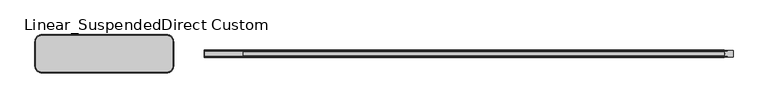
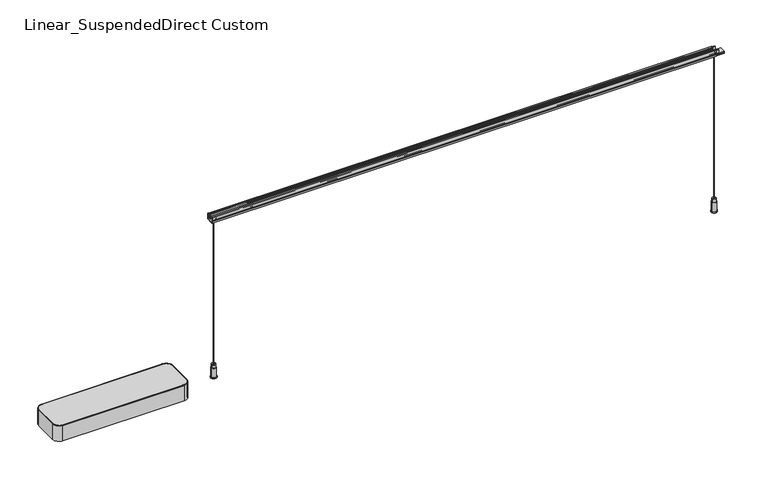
"""IFC4 building model written with IfcOpenShell, lengths in millimetres: light fixture geometry, ARTEMIDE-TurnAround-Linear_SuspendedDirect : Linear_SuspendedDirect Custom."""

from ifc_helpers import new_model, si_unit, point, frame, frame_2d, origin, origin_with_axes, place, context, project, spatial, polyline, circle_curve, ellipse_curve, trimmed, segment, composite_curve, outline, extrude, source, transform, mapped, element, save
from ifc_brep_helpers import plane_surface, cylinder_surface, revolved_surface, advanced_brep


def linear_suspendeddirect_custom_5ef7d768(model_context):
    return source(origin(), model_context, "Body", "SolidModel", [
        advanced_brep(
        [(-109.8389602, -55.0879179, 0.0), (-470.1610045, -55.0879179, 0.0), (-490.1610045, -35.0879179, 0.0), (-490.1610045, 35.0879179, 0.0), (-470.1610045, 55.0879179, 0.0), (-109.8389602, 55.0879179, 0.0), (-89.8389602, 35.0879179, 0.0), (-89.8389602, -35.0879179, 0.0), (-109.8389602, -53.0879179, 0.0), (-91.8389602, -35.0879179, 0.0), (-91.8389602, 35.0879179, 0.0), (-109.8389602, 53.0879179, 0.0), (-470.1610045, 53.0879179, 0.0), (-488.1610045, 35.0879179, 0.0), (-488.1610045, -35.0879179, 0.0), (-470.1610045, -53.0879179, 0.0), (-488.1610045, -35.0879179, 50.0), (-470.1610045, -53.0879179, 50.0), (-109.8389602, -53.0879179, 50.0), (-91.8389602, -35.0879179, 50.0), (-91.8389602, 35.0879179, 50.0), (-109.8389602, 53.0879179, 50.0), (-470.1610045, 53.0879179, 50.0), (-488.1610045, 35.0879179, 50.0), (-109.8389602, -55.0879179, 48.0), (-470.1610045, -55.0879179, 48.0), (-490.1610045, -35.0879179, 48.0), (-490.1610045, 35.0879179, 48.0), (-470.1610045, 55.0879179, 48.0), (-109.8389602, 55.0879179, 48.0), (-89.8389602, 35.0879179, 48.0), (-89.8389602, -35.0879179, 48.0), (-109.8389602, -53.0879179, 48.0), (-91.8389602, -35.0879179, 48.0), (-91.8389602, 35.0879179, 48.0), (-109.8389602, 53.0879179, 48.0), (-470.1610045, 53.0879179, 48.0), (-488.1610045, 35.0879179, 48.0), (-488.1610045, -35.0879179, 48.0), (-470.1610045, -53.0879179, 48.0)],
        [
            (0, 1),
            (1, 2, circle_curve(frame((-470.1610045, -35.0879179, 0.0), z_axis=(0.0, 0.0, -1.0), x_axis=(-1.0, 0.0, 0.0)), 20.0)),
            (2, 3),
            (3, 4, circle_curve(frame((-470.1610045, 35.0879179, 0.0), z_axis=(0.0, 0.0, -1.0), x_axis=(-1.0, 0.0, 0.0)), 20.0)),
            (4, 5),
            (5, 6, circle_curve(frame((-109.8389602, 35.0879179, 0.0), z_axis=(0.0, 0.0, -1.0), x_axis=(-1.0, 0.0, 0.0)), 20.0)),
            (6, 7),
            (7, 0, circle_curve(frame((-109.8389602, -35.0879179, 0.0), z_axis=(0.0, 0.0, -1.0), x_axis=(-1.0, 0.0, 0.0)), 20.0)),
            (8, 9, circle_curve(frame((-109.8389602, -35.0879179, 0.0), z_axis=(0.0, 0.0, 1.0), x_axis=(-1.0, 0.0, 0.0)), 18.0)),
            (9, 10),
            (10, 11, circle_curve(frame((-109.8389602, 35.0879179, 0.0), z_axis=(0.0, 0.0, 1.0), x_axis=(-1.0, 0.0, 0.0)), 18.0)),
            (11, 12),
            (12, 13, circle_curve(frame((-470.1610045, 35.0879179, 0.0), z_axis=(0.0, 0.0, 1.0), x_axis=(-1.0, 0.0, 0.0)), 18.0)),
            (13, 14),
            (14, 15, circle_curve(frame((-470.1610045, -35.0879179, 0.0), z_axis=(0.0, 0.0, 1.0), x_axis=(-1.0, 0.0, 0.0)), 18.0)),
            (15, 8),
            (16, 17, circle_curve(frame((-470.1610045, -35.0879179, 50.0), z_axis=(0.0, 0.0, 1.0), x_axis=(-1.0, 0.0, 0.0)), 18.0)),
            (17, 18),
            (18, 19, circle_curve(frame((-109.8389602, -35.0879179, 50.0), z_axis=(0.0, 0.0, 1.0), x_axis=(0.0, -1.0, 0.0)), 18.0)),
            (19, 20),
            (20, 21, circle_curve(frame((-109.8389602, 35.0879179, 50.0), z_axis=(0.0, 0.0, 1.0), x_axis=(1.0, 0.0, 0.0)), 18.0)),
            (21, 22),
            (22, 23, circle_curve(frame((-470.1610045, 35.0879179, 50.0), z_axis=(0.0, 0.0, 1.0), x_axis=(0.0, 1.0, 0.0)), 18.0)),
            (23, 16),
            (0, 24),
            (24, 25),
            (25, 1),
            (2, 26),
            (26, 27),
            (27, 3),
            (4, 28),
            (28, 29),
            (29, 5),
            (6, 30),
            (30, 31),
            (31, 7),
            (25, 26, circle_curve(frame((-470.1610045, -35.0879179, 48.0), z_axis=(0.0, 0.0, -1.0), x_axis=(-1.0, 0.0, 0.0)), 20.0)),
            (27, 28, circle_curve(frame((-470.1610045, 35.0879179, 48.0), z_axis=(0.0, 0.0, -1.0), x_axis=(-1.0, 0.0, 0.0)), 20.0)),
            (29, 30, circle_curve(frame((-109.8389602, 35.0879179, 48.0), z_axis=(0.0, 0.0, -1.0), x_axis=(-1.0, 0.0, 0.0)), 20.0)),
            (31, 24, circle_curve(frame((-109.8389602, -35.0879179, 48.0), z_axis=(0.0, 0.0, -1.0), x_axis=(-1.0, 0.0, 0.0)), 20.0)),
            (8, 32),
            (32, 33, circle_curve(frame((-109.8389602, -35.0879179, 48.0), z_axis=(0.0, 0.0, 1.0), x_axis=(-1.0, 0.0, 0.0)), 18.0)),
            (33, 9),
            (33, 34),
            (34, 10),
            (34, 35, circle_curve(frame((-109.8389602, 35.0879179, 48.0), z_axis=(0.0, 0.0, 1.0), x_axis=(-1.0, 0.0, 0.0)), 18.0)),
            (35, 11),
            (35, 36),
            (36, 12),
            (36, 37, circle_curve(frame((-470.1610045, 35.0879179, 48.0), z_axis=(0.0, 0.0, 1.0), x_axis=(-1.0, 0.0, 0.0)), 18.0)),
            (37, 13),
            (37, 38),
            (38, 14),
            (38, 39, circle_curve(frame((-470.1610045, -35.0879179, 48.0), z_axis=(0.0, 0.0, 1.0), x_axis=(-1.0, 0.0, 0.0)), 18.0)),
            (39, 15),
            (39, 32),
            (25, 17, circle_curve(frame((-470.1610045, -53.0879179, 48.0), z_axis=(-1.0, 0.0, 0.0), x_axis=(0.0, 1.0, 0.0)), 2.0)),
            (16, 26, circle_curve(frame((-488.1610045, -35.0879179, 48.0), z_axis=(0.0, -1.0, 0.0), x_axis=(1.0, 0.0, 0.0)), 2.0)),
            (24, 18, circle_curve(frame((-109.8389602, -53.0879179, 48.0), z_axis=(-1.0, 0.0, 0.0), x_axis=(0.0, 1.0, 0.0)), 2.0)),
            (31, 19, circle_curve(frame((-91.8389602, -35.0879179, 48.0), z_axis=(0.0, -1.0, 0.0), x_axis=(-1.0, 0.0, 0.0)), 2.0)),
            (30, 20, circle_curve(frame((-91.8389602, 35.0879179, 48.0), z_axis=(0.0, -1.0, 0.0), x_axis=(-1.0, 0.0, 0.0)), 2.0)),
            (29, 21, circle_curve(frame((-109.8389602, 53.0879179, 48.0), z_axis=(1.0, 0.0, 0.0), x_axis=(0.0, -1.0, 0.0)), 2.0)),
            (28, 22, circle_curve(frame((-470.1610045, 53.0879179, 48.0), z_axis=(1.0, 0.0, 0.0), x_axis=(0.0, -1.0, 0.0)), 2.0)),
            (27, 23, circle_curve(frame((-488.1610045, 35.0879179, 48.0), z_axis=(0.0, 1.0, 0.0), x_axis=(1.0, 0.0, 0.0)), 2.0)),
        ],
        [
            plane_surface(frame((-470.1610045, -55.0879179, 0.0), z_axis=(0.0, 0.0, -1.0), x_axis=(-1.0, 0.0, 0.0))),
            plane_surface(frame((-470.1610045, -55.0879179, 50.0), z_axis=(0.0, 0.0, 1.0), x_axis=(1.0, 0.0, 0.0))),
            plane_surface(frame((-109.8389602, -55.0879179, 0.0), z_axis=(0.0, -1.0, 0.0), x_axis=(0.0, 0.0, 1.0))),
            plane_surface(frame((-490.1610045, -35.0879179, 0.0), z_axis=(-1.0, 0.0, 0.0), x_axis=(0.0, 0.0, 1.0))),
            plane_surface(frame((-470.1610045, 55.0879179, 0.0), z_axis=(0.0, 1.0, 0.0), x_axis=(0.0, 0.0, 1.0))),
            plane_surface(frame((-89.8389602, 35.0879179, 0.0), z_axis=(1.0, 0.0, 0.0), x_axis=(0.0, 0.0, 1.0))),
            cylinder_surface(frame((-470.1610045, -35.0879179, 50.0), z_axis=(0.0, 0.0, -1.0), x_axis=(-1.0, 0.0, 0.0)), 20.0),
            cylinder_surface(frame((-470.1610045, 35.0879179, 50.0), z_axis=(0.0, 0.0, -1.0), x_axis=(-1.0, 0.0, 0.0)), 20.0),
            cylinder_surface(frame((-109.8389602, 35.0879179, 50.0), z_axis=(0.0, 0.0, -1.0), x_axis=(-1.0, 0.0, 0.0)), 20.0),
            cylinder_surface(frame((-109.8389602, -35.0879179, 50.0), z_axis=(0.0, 0.0, -1.0), x_axis=(-1.0, 0.0, 0.0)), 20.0),
            revolved_surface(polyline([(-127.8389602, -35.0879179, 48.0), (-127.8389602, -35.0879179, 0.0)]), (-109.8389602, -35.0879179, 0.0), (0.0, 0.0, 1.0)),
            plane_surface(frame((-91.8389602, -35.0879179, 0.0), z_axis=(-1.0, 0.0, 0.0), x_axis=(0.0, 0.0, 1.0))),
            revolved_surface(polyline([(-127.8389602, 35.0879179, 48.0), (-127.8389602, 35.0879179, 0.0)]), (-109.8389602, 35.0879179, 0.0), (0.0, 0.0, 1.0)),
            plane_surface(frame((-109.8389602, 53.0879179, 0.0), z_axis=(0.0, -1.0, 0.0), x_axis=(0.0, 0.0, 1.0))),
            revolved_surface(polyline([(-488.1610045, 35.0879179, 48.0), (-488.1610045, 35.0879179, 0.0)]), (-470.1610045, 35.0879179, 0.0), (0.0, 0.0, 1.0)),
            plane_surface(frame((-488.1610045, 35.0879179, 0.0), z_axis=(1.0, 0.0, 0.0), x_axis=(0.0, 0.0, 1.0))),
            revolved_surface(polyline([(-488.1610045, -35.0879179, 48.0), (-488.1610045, -35.0879179, 0.0)]), (-470.1610045, -35.0879179, 0.0), (0.0, 0.0, 1.0)),
            plane_surface(frame((-470.1610045, -53.0879179, 0.0), z_axis=(0.0, 1.0, 0.0), x_axis=(0.0, 0.0, 1.0))),
            plane_surface(frame((-470.1610045, -55.0879179, 48.0), z_axis=(0.0, 0.0, -1.0), x_axis=(-1.0, 0.0, 0.0))),
            revolved_surface(trimmed(ellipse_curve(frame((-488.1610045, -35.0879179, 48.0), z_axis=(0.0, 1.0, 0.0), x_axis=(1.0, 0.0, 0.0)), 2.0, 2.0), [point((-490.1610045, -35.0879179, 48.0))], [point((-488.1610045, -35.0879179, 50.0))], True, "CARTESIAN"), (-470.1610045, -35.0879179, 50.0), (0.0, 0.0, 1.0)),
            cylinder_surface(frame((-470.1610045, -53.0879179, 48.0), z_axis=(1.0, 0.0, 0.0), x_axis=(0.0, 1.0, 0.0)), 2.0),
            revolved_surface(trimmed(ellipse_curve(frame((-109.8389602, -53.0879179, 48.0), z_axis=(-1.0, 0.0, 0.0), x_axis=(0.0, 1.0, 0.0)), 2.0, 2.0), [point((-109.8389602, -55.0879179, 48.0))], [point((-109.8389602, -53.0879179, 50.0))], True, "CARTESIAN"), (-109.8389602, -35.0879179, 50.0), (0.0, 0.0, 1.0)),
            cylinder_surface(frame((-91.8389602, -35.0879179, 48.0), z_axis=(0.0, 1.0, 0.0), x_axis=(-1.0, 0.0, 0.0)), 2.0),
            revolved_surface(trimmed(ellipse_curve(frame((-91.8389602, 35.0879179, 48.0), z_axis=(0.0, -1.0, 0.0), x_axis=(-1.0, 0.0, 0.0)), 2.0, 2.0), [point((-89.8389602, 35.0879179, 48.0))], [point((-91.8389602, 35.0879179, 50.0))], True, "CARTESIAN"), (-109.8389602, 35.0879179, 50.0), (0.0, 0.0, 1.0)),
            cylinder_surface(frame((-109.8389602, 53.0879179, 48.0), z_axis=(-1.0, 0.0, 0.0), x_axis=(0.0, -1.0, 0.0)), 2.0),
            revolved_surface(trimmed(ellipse_curve(frame((-470.1610045, 53.0879179, 48.0), z_axis=(1.0, 0.0, 0.0), x_axis=(0.0, -1.0, 0.0)), 2.0, 2.0), [point((-470.1610045, 55.0879179, 48.0))], [point((-470.1610045, 53.0879179, 50.0))], True, "CARTESIAN"), (-470.1610045, 35.0879179, 50.0), (0.0, 0.0, 1.0)),
            cylinder_surface(frame((-488.1610045, 35.0879179, 48.0), z_axis=(0.0, -1.0, 0.0), x_axis=(1.0, 0.0, 0.0)), 2.0),
        ],
        [
            (0, [[1, 2, 3, 4, 5, 6, 7, 8], [9, 10, 11, 12, 13, 14, 15, 16]]),
            (1, [[17, 18, 19, 20, 21, 22, 23, 24]]),
            (2, [[-1, 25, 26, 27]]),
            (3, [[-3, 28, 29, 30]]),
            (4, [[-5, 31, 32, 33]]),
            (5, [[-7, 34, 35, 36]]),
            (6, [[-2, -27, 37, -28]]),
            (7, [[-4, -30, 38, -31]]),
            (8, [[-6, -33, 39, -34]]),
            (9, [[-8, -36, 40, -25]]),
            (10, [[-9, 41, 42, 43]]),
            (11, [[-10, -43, 44, 45]]),
            (12, [[-11, -45, 46, 47]]),
            (13, [[-12, -47, 48, 49]]),
            (14, [[-13, -49, 50, 51]]),
            (15, [[-14, -51, 52, 53]]),
            (16, [[-15, -53, 54, 55]]),
            (17, [[-16, -55, 56, -41]]),
            (18, [[-42, -56, -54, -52, -50, -48, -46, -44]]),
            (19, [[57, -17, 58, -37]]),
            (20, [[-57, -26, 59, -18]]),
            (21, [[-59, -40, 60, -19]]),
            (22, [[-60, -35, 61, -20]]),
            (23, [[-61, -39, 62, -21]]),
            (24, [[-62, -32, 63, -22]]),
            (25, [[-63, -38, 64, -23]]),
            (26, [[-58, -24, -64, -29]]),
        ],
    ),
        extrude(outline(polyline([(110.0, 6.3498693), (110.0, -6.3499287), (0.0, -6.3499287), (0.0, 6.3498693), (110.0, 6.3498693)])), frame((0.0, 0.0, 501.1503638), z_axis=(0.0, 0.0, 1.0), x_axis=(1.0, 0.0, 0.0)), (0.0, 0.0, 1.0), 10.8496362),
        extrude(outline(composite_curve([segment(polyline([(9.9996331, 500.9503638), (9.9996331, 511.4002115), (7.9680122, 511.4001219), (7.9680122, 510.400149), (7.1680122, 510.400149), (7.1680122, 511.2500635), (6.3498693, 511.2500635), (6.3498693, 512.5), (11.0170651, 512.5), (11.0170651, 502.1565084)]), True, "CONTINUOUS"), segment(trimmed(circle_curve(frame_2d((18.0138248, 500.1749675)), 7.2719427), [point((11.0170651, 502.1565084))], [point((11.0170651, 498.1934267))], True, "CARTESIAN"), True, "CONTINUOUS"), segment(polyline([(11.0170651, 498.1934267), (11.0170651, 494.2003595), (10.000004, 494.2003595), (10.000004, 496.2003645), (6.3499287, 496.2003645), (6.3499287, 497.4503421), (9.4999904, 497.4503421), (9.4999904, 499.500364), (-9.4999904, 499.500364), (-9.4999904, 497.4503421), (-6.3499287, 497.4503421), (-6.3499287, 496.2003645), (-10.000004, 496.2003645), (-10.000004, 494.2003595), (-11.0170651, 494.2003595), (-11.0170651, 498.1934267)]), True, "CONTINUOUS"), segment(trimmed(circle_curve(frame_2d((-18.0138248, 500.1749675)), 7.2719427), [point((-11.0170651, 498.1934267))], [point((-11.0170651, 502.1565084))], True, "CARTESIAN"), True, "CONTINUOUS"), segment(polyline([(-11.0170651, 502.1565084), (-11.0170651, 512.5), (-6.3498693, 512.5), (-6.3498693, 511.2500635), (-7.1680122, 511.2500635), (-7.1680122, 510.400149), (-7.9680122, 510.400149), (-7.9680122, 511.4001219), (-9.9996331, 511.4002115), (-9.9996331, 500.9503638), (-7.9680122, 500.9503638), (-7.9680122, 501.9503638), (-7.1680122, 501.9503638), (-7.1680122, 501.1503638), (7.1680122, 501.1503638), (7.1680122, 501.9503638), (7.9680122, 501.9503638), (7.9680122, 500.9503638), (9.9996331, 500.9503638)]), True, "CONTINUOUS")], self_intersect=False)), frame((0.0, 0.0, 0.0), z_axis=(1.0, 0.0, 0.0), x_axis=(0.0, 1.0, 0.0)), (0.0, 0.0, 1.0), 1500.0),
        extrude(outline(polyline([(511.2500635, 1503.6635812), (511.2500635, 1496.3364188), (510.4109032, 1491.5773043), (502.004045, 1491.5773043), (501.1503638, 1496.418771), (501.1503638, 1503.581229), (502.004045, 1508.4226957), (510.3818614, 1508.4226957), (511.2500635, 1503.6635812)])), frame((0.0, -10.0, 0.0), z_axis=(0.0, 1.0, 0.0), x_axis=(0.0, 0.0, 1.0)), (0.0, 0.0, 1.0), 1.3991753),
        extrude(outline(composite_curve([segment(trimmed(circle_curve(frame_2d((10.0, 0.0)), 1.0), [point((11.0, 0.0))], [point((9.0, 0.0))], False, "CARTESIAN"), True, "CONTINUOUS"), segment(trimmed(circle_curve(frame_2d((10.0, 0.0)), 1.0), [point((9.0, 0.0))], [point((11.0, 0.0))], False, "CARTESIAN"), True, "CONTINUOUS")], self_intersect=False)), origin_with_axes(), (0.0, 0.0, 1.0), 500.0),
        advanced_brep(
        [(9.0, 0.0, 41.0209548), (11.0, 0.0, 41.0209548), (15.8902255, 0.0, 41.0209548), (4.1097745, 0.0, 41.0209548), (9.0, 0.0, 0.0), (11.0, 0.0, 0.0), (1.0476301, 0.0, 0.0), (18.9523699, 0.0, 0.0), (1.0476301, 0.0, 2.0209548), (18.9523699, 0.0, 2.0209548), (3.0476301, 0.0, 2.0209548), (16.9523699, 0.0, 2.0209548), (3.0476301, 0.0, 30.9721976), (16.9523699, 0.0, 30.9721976), (4.1097745, 0.0, 30.9721976), (15.8902255, 0.0, 30.9721976)],
        [
            (0, 1, circle_curve(frame((10.0, 0.0, 41.0209548), z_axis=(0.0, 0.0, -1.0), x_axis=(1.0, 0.0, 0.0)), 1.0)),
            (1, 2),
            (2, 3, circle_curve(frame((10.0, 0.0, 41.0209548), z_axis=(0.0, 0.0, 1.0), x_axis=(1.0, 0.0, 0.0)), 5.8902255)),
            (3, 0),
            (1, 0, circle_curve(frame((10.0, 0.0, 41.0209548), z_axis=(0.0, 0.0, -1.0), x_axis=(1.0, 0.0, 0.0)), 1.0)),
            (3, 2, circle_curve(frame((10.0, 0.0, 41.0209548), z_axis=(0.0, 0.0, 1.0), x_axis=(1.0, 0.0, 0.0)), 5.8902255)),
            (4, 5, circle_curve(frame((10.0, 0.0, 0.0), z_axis=(0.0, 0.0, -1.0), x_axis=(1.0, 0.0, 0.0)), 1.0)),
            (5, 1),
            (0, 4),
            (5, 4, circle_curve(frame((10.0, 0.0, 0.0), z_axis=(0.0, 0.0, -1.0), x_axis=(1.0, 0.0, 0.0)), 1.0)),
            (6, 7, circle_curve(frame((10.0, 0.0, 0.0), z_axis=(0.0, 0.0, -1.0), x_axis=(1.0, 0.0, 0.0)), 8.9523699)),
            (7, 5),
            (4, 6),
            (7, 6, circle_curve(frame((10.0, 0.0, 0.0), z_axis=(0.0, 0.0, -1.0), x_axis=(1.0, 0.0, 0.0)), 8.9523699)),
            (8, 9, circle_curve(frame((10.0, 0.0, 2.0209548), z_axis=(0.0, 0.0, -1.0), x_axis=(1.0, 0.0, 0.0)), 8.9523699)),
            (9, 7),
            (6, 8),
            (9, 8, circle_curve(frame((10.0, 0.0, 2.0209548), z_axis=(0.0, 0.0, -1.0), x_axis=(1.0, 0.0, 0.0)), 8.9523699)),
            (10, 11, circle_curve(frame((10.0, 0.0, 2.0209548), z_axis=(0.0, 0.0, -1.0), x_axis=(1.0, 0.0, 0.0)), 6.9523699)),
            (11, 9),
            (8, 10),
            (11, 10, circle_curve(frame((10.0, 0.0, 2.0209548), z_axis=(0.0, 0.0, -1.0), x_axis=(1.0, 0.0, 0.0)), 6.9523699)),
            (12, 13, circle_curve(frame((10.0, 0.0, 30.9721976), z_axis=(0.0, 0.0, -1.0), x_axis=(1.0, 0.0, 0.0)), 6.9523699)),
            (13, 11),
            (10, 12),
            (13, 12, circle_curve(frame((10.0, 0.0, 30.9721976), z_axis=(0.0, 0.0, -1.0), x_axis=(1.0, 0.0, 0.0)), 6.9523699)),
            (14, 15, circle_curve(frame((10.0, 0.0, 30.9721976), z_axis=(0.0, 0.0, -1.0), x_axis=(1.0, 0.0, 0.0)), 5.8902255)),
            (15, 13),
            (12, 14),
            (15, 14, circle_curve(frame((10.0, 0.0, 30.9721976), z_axis=(0.0, 0.0, -1.0), x_axis=(1.0, 0.0, 0.0)), 5.8902255)),
            (2, 15),
            (14, 3),
        ],
        [
            plane_surface(frame((10.0, 0.0, 41.0209548), z_axis=(0.0, 0.0, 1.0), x_axis=(1.0, 0.0, 0.0))),
            revolved_surface(polyline([(11.0, 0.0, 41.02095480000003), (11.0, 0.0, 0.0)]), (10.0, 0.0, 391.16642), (0.0, 0.0, 1.0)),
            plane_surface(frame((10.0, 0.0, 0.0), z_axis=(0.0, 0.0, -1.0), x_axis=(1.0, 0.0, 0.0))),
            cylinder_surface(frame((10.0, 0.0, 391.16642), z_axis=(0.0, 0.0, 1.0), x_axis=(1.0, 0.0, 0.0)), 8.9523699),
            plane_surface(frame((10.0, 0.0, 2.0209548), z_axis=(0.0, 0.0, 1.0), x_axis=(1.0, 0.0, 0.0))),
            cylinder_surface(frame((10.0, 0.0, 391.16642), z_axis=(0.0, 0.0, 1.0), x_axis=(1.0, 0.0, 0.0)), 6.9523699),
            plane_surface(frame((10.0, 0.0, 30.9721976), z_axis=(0.0, 0.0, 1.0), x_axis=(1.0, 0.0, 0.0))),
            cylinder_surface(frame((10.0, 0.0, 391.16642), z_axis=(0.0, 0.0, 1.0), x_axis=(1.0, 0.0, 0.0)), 5.8902255),
        ],
        [
            (0, [[1, 2, 3, 4]]),
            (0, [[5, -4, 6, -2]]),
            (1, [[7, 8, -1, 9]]),
            (1, [[10, -9, -5, -8]]),
            (2, [[11, 12, -7, 13]]),
            (2, [[14, -13, -10, -12]]),
            (3, [[15, 16, -11, 17]]),
            (3, [[18, -17, -14, -16]]),
            (4, [[19, 20, -15, 21]]),
            (4, [[22, -21, -18, -20]]),
            (5, [[23, 24, -19, 25]]),
            (5, [[26, -25, -22, -24]]),
            (6, [[27, 28, -23, 29]]),
            (6, [[30, -29, -26, -28]]),
            (7, [[-3, 31, -27, 32]]),
            (7, [[-6, -32, -30, -31]]),
        ],
    ),
        extrude(outline(polyline([(1475.0, -9.5), (1475.0, 9.5), (1525.0, 9.5), (1525.0, -9.5), (1475.0, -9.5)])), frame((0.0, 0.0, 494.2), z_axis=(0.0, 0.0, 1.0), x_axis=(1.0, 0.0, 0.0)), (0.0, 0.0, 1.0), 2.0),
        extrude(outline(polyline([(0.0, -9.5), (0.0, 9.5), (20.0, 9.5), (20.0, -9.5), (0.0, -9.5)])), frame((0.0, 0.0, 494.2), z_axis=(0.0, 0.0, 1.0), x_axis=(1.0, 0.0, 0.0)), (0.0, 0.0, 1.0), 2.0),
        extrude(outline(composite_curve([segment(trimmed(circle_curve(frame_2d((1500.0, 0.0)), 1.0), [point((1501.0, 0.0))], [point((1499.0, 0.0))], False, "CARTESIAN"), True, "CONTINUOUS"), segment(trimmed(circle_curve(frame_2d((1500.0, 0.0)), 1.0), [point((1499.0, 0.0))], [point((1501.0, 0.0))], False, "CARTESIAN"), True, "CONTINUOUS")], self_intersect=False)), origin_with_axes(), (0.0, 0.0, 1.0), 500.0),
        advanced_brep(
        [(1499.0, 0.0, 41.0209548), (1501.0, 0.0, 41.0209548), (1505.8902255, 0.0, 41.0209548), (1494.1097745, 0.0, 41.0209548), (1499.0, 0.0, 0.0), (1501.0, 0.0, 0.0), (1491.0476301, 0.0, 0.0), (1508.9523699, 0.0, 0.0), (1491.0476301, 0.0, 2.0209548), (1508.9523699, 0.0, 2.0209548), (1493.0476301, 0.0, 2.0209548), (1506.9523699, 0.0, 2.0209548), (1493.0476301, 0.0, 30.9721976), (1506.9523699, 0.0, 30.9721976), (1494.1097745, 0.0, 30.9721976), (1505.8902255, 0.0, 30.9721976)],
        [
            (0, 1, circle_curve(frame((1500.0, 0.0, 41.0209548), z_axis=(0.0, 0.0, -1.0), x_axis=(1.0, 0.0, 0.0)), 1.0)),
            (1, 2),
            (2, 3, circle_curve(frame((1500.0, 0.0, 41.0209548), z_axis=(0.0, 0.0, 1.0), x_axis=(1.0, 0.0, 0.0)), 5.8902255)),
            (3, 0),
            (1, 0, circle_curve(frame((1500.0, 0.0, 41.0209548), z_axis=(0.0, 0.0, -1.0), x_axis=(1.0, 0.0, 0.0)), 1.0)),
            (3, 2, circle_curve(frame((1500.0, 0.0, 41.0209548), z_axis=(0.0, 0.0, 1.0), x_axis=(1.0, 0.0, 0.0)), 5.8902255)),
            (4, 5, circle_curve(frame((1500.0, 0.0, 0.0), z_axis=(0.0, 0.0, -1.0), x_axis=(1.0, 0.0, 0.0)), 1.0)),
            (5, 1),
            (0, 4),
            (5, 4, circle_curve(frame((1500.0, 0.0, 0.0), z_axis=(0.0, 0.0, -1.0), x_axis=(1.0, 0.0, 0.0)), 1.0)),
            (6, 7, circle_curve(frame((1500.0, 0.0, 0.0), z_axis=(0.0, 0.0, -1.0), x_axis=(1.0, 0.0, 0.0)), 8.9523699)),
            (7, 5),
            (4, 6),
            (7, 6, circle_curve(frame((1500.0, 0.0, 0.0), z_axis=(0.0, 0.0, -1.0), x_axis=(1.0, 0.0, 0.0)), 8.9523699)),
            (8, 9, circle_curve(frame((1500.0, 0.0, 2.0209548), z_axis=(0.0, 0.0, -1.0), x_axis=(1.0, 0.0, 0.0)), 8.9523699)),
            (9, 7),
            (6, 8),
            (9, 8, circle_curve(frame((1500.0, 0.0, 2.0209548), z_axis=(0.0, 0.0, -1.0), x_axis=(1.0, 0.0, 0.0)), 8.9523699)),
            (10, 11, circle_curve(frame((1500.0, 0.0, 2.0209548), z_axis=(0.0, 0.0, -1.0), x_axis=(1.0, 0.0, 0.0)), 6.9523699)),
            (11, 9),
            (8, 10),
            (11, 10, circle_curve(frame((1500.0, 0.0, 2.0209548), z_axis=(0.0, 0.0, -1.0), x_axis=(1.0, 0.0, 0.0)), 6.9523699)),
            (12, 13, circle_curve(frame((1500.0, 0.0, 30.9721976), z_axis=(0.0, 0.0, -1.0), x_axis=(1.0, 0.0, 0.0)), 6.9523699)),
            (13, 11),
            (10, 12),
            (13, 12, circle_curve(frame((1500.0, 0.0, 30.9721976), z_axis=(0.0, 0.0, -1.0), x_axis=(1.0, 0.0, 0.0)), 6.9523699)),
            (14, 15, circle_curve(frame((1500.0, 0.0, 30.9721976), z_axis=(0.0, 0.0, -1.0), x_axis=(1.0, 0.0, 0.0)), 5.8902255)),
            (15, 13),
            (12, 14),
            (15, 14, circle_curve(frame((1500.0, 0.0, 30.9721976), z_axis=(0.0, 0.0, -1.0), x_axis=(1.0, 0.0, 0.0)), 5.8902255)),
            (2, 15),
            (14, 3),
        ],
        [
            plane_surface(frame((1500.0, 0.0, 41.0209548), z_axis=(0.0, 0.0, 1.0), x_axis=(1.0, 0.0, 0.0))),
            revolved_surface(polyline([(1501.0, 0.0, 41.02095480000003), (1501.0, 0.0, 0.0)]), (1500.0, 0.0, 391.16642), (0.0, 0.0, 1.0)),
            plane_surface(frame((1500.0, 0.0, 0.0), z_axis=(0.0, 0.0, -1.0), x_axis=(1.0, 0.0, 0.0))),
            cylinder_surface(frame((1500.0, 0.0, 391.16642), z_axis=(0.0, 0.0, 1.0), x_axis=(1.0, 0.0, 0.0)), 8.9523699),
            plane_surface(frame((1500.0, 0.0, 2.0209548), z_axis=(0.0, 0.0, 1.0), x_axis=(1.0, 0.0, 0.0))),
            cylinder_surface(frame((1500.0, 0.0, 391.16642), z_axis=(0.0, 0.0, 1.0), x_axis=(1.0, 0.0, 0.0)), 6.9523699),
            plane_surface(frame((1500.0, 0.0, 30.9721976), z_axis=(0.0, 0.0, 1.0), x_axis=(1.0, 0.0, 0.0))),
            cylinder_surface(frame((1500.0, 0.0, 391.16642), z_axis=(0.0, 0.0, 1.0), x_axis=(1.0, 0.0, 0.0)), 5.8902255),
        ],
        [
            (0, [[1, 2, 3, 4]]),
            (0, [[5, -4, 6, -2]]),
            (1, [[7, 8, -1, 9]]),
            (1, [[10, -9, -5, -8]]),
            (2, [[11, 12, -7, 13]]),
            (2, [[14, -13, -10, -12]]),
            (3, [[15, 16, -11, 17]]),
            (3, [[18, -17, -14, -16]]),
            (4, [[19, 20, -15, 21]]),
            (4, [[22, -21, -18, -20]]),
            (5, [[23, 24, -19, 25]]),
            (5, [[26, -25, -22, -24]]),
            (6, [[27, 28, -23, 29]]),
            (6, [[30, -29, -26, -28]]),
            (7, [[-3, 31, -27, 32]]),
            (7, [[-6, -32, -30, -31]]),
        ],
    ),
        extrude(outline(polyline([(1525.0, -9.5), (1475.0, -9.5), (1475.0, 9.5), (1525.0, 9.5), (1525.0, -9.5)])), frame((0.0, 0.0, 497.4503421), z_axis=(0.0, 0.0, 1.0), x_axis=(1.0, 0.0, 0.0)), (0.0, 0.0, 1.0), 2.0496579),
        extrude(outline(polyline([(20.0, -9.5), (0.0, -9.5), (0.0, 9.5), (20.0, 9.5), (20.0, -9.5)])), frame((0.0, 0.0, 497.4503421), z_axis=(0.0, 0.0, 1.0), x_axis=(1.0, 0.0, 0.0)), (0.0, 0.0, 1.0), 2.0496579),
        extrude(outline(composite_curve([segment(trimmed(circle_curve(frame_2d((7.4508247, 504.1003638)), 1.15), [point((8.6008247, 504.1003638))], [point((6.3008247, 504.1003638))], False, "CARTESIAN"), True, "CONTINUOUS"), segment(trimmed(circle_curve(frame_2d((7.4508247, 504.1003638)), 1.15), [point((6.3008247, 504.1003638))], [point((8.6008247, 504.1003638))], False, "CARTESIAN"), True, "CONTINUOUS")], self_intersect=False)), frame((0.0, 0.0, 0.0), z_axis=(1.0, 0.0, 0.0), x_axis=(0.0, 1.0, 0.0)), (0.0, 0.0, 1.0), 1500.0),
        extrude(outline(composite_curve([segment(trimmed(circle_curve(frame_2d((7.4508247, 508.2502732)), 1.15), [point((8.6008247, 508.2502732))], [point((6.3008247, 508.2502732))], False, "CARTESIAN"), True, "CONTINUOUS"), segment(trimmed(circle_curve(frame_2d((7.4508247, 508.2502732)), 1.15), [point((6.3008247, 508.2502732))], [point((8.6008247, 508.2502732))], False, "CARTESIAN"), True, "CONTINUOUS")], self_intersect=False)), frame((0.0, 0.0, 0.0), z_axis=(1.0, 0.0, 0.0), x_axis=(0.0, 1.0, 0.0)), (0.0, 0.0, 1.0), 1500.0),
        extrude(outline(composite_curve([segment(trimmed(circle_curve(frame_2d((-7.4508247, 504.1003638)), 1.15), [point((-8.6008247, 504.1003638))], [point((-6.3008247, 504.1003638))], False, "CARTESIAN"), True, "CONTINUOUS"), segment(trimmed(circle_curve(frame_2d((-7.4508247, 504.1003638)), 1.15), [point((-6.3008247, 504.1003638))], [point((-8.6008247, 504.1003638))], False, "CARTESIAN"), True, "CONTINUOUS")], self_intersect=False)), frame((0.0, 0.0, 0.0), z_axis=(1.0, 0.0, 0.0), x_axis=(0.0, 1.0, 0.0)), (0.0, 0.0, 1.0), 1500.0),
        extrude(outline(composite_curve([segment(trimmed(circle_curve(frame_2d((-7.4508247, 508.2502732)), 1.15), [point((-8.6008247, 508.2502732))], [point((-6.3008247, 508.2502732))], False, "CARTESIAN"), True, "CONTINUOUS"), segment(trimmed(circle_curve(frame_2d((-7.4508247, 508.2502732)), 1.15), [point((-6.3008247, 508.2502732))], [point((-8.6008247, 508.2502732))], False, "CARTESIAN"), True, "CONTINUOUS")], self_intersect=False)), frame((0.0, 0.0, 0.0), z_axis=(1.0, 0.0, 0.0), x_axis=(0.0, 1.0, 0.0)), (0.0, 0.0, 1.0), 1500.0),
        advanced_brep(
        [(10.0, 9.9996331, 500.9503638), (10.0, 7.9680122, 500.9503638), (10.0, 7.9680122, 501.9503638), (10.0, 6.3251754, 501.9503638), (10.0, 6.3251754, 502.9503638), (10.0, 7.4508247, 502.9503638), (10.0, 7.4508247, 505.2503638), (10.0, 6.3251754, 505.2503638), (10.0, 6.3251754, 507.1002732), (10.0, 7.4508247, 507.1002732), (10.0, 7.4508247, 509.4002732), (10.0, 6.3251754, 509.4002732), (10.0, 6.3251754, 510.4002732), (10.0, 7.9680122, 510.400149), (10.0, 7.9680122, 511.4001219), (10.0, 9.9996331, 511.4002115), (1490.0, 9.9996331, 500.9503638), (1490.0, 9.9996331, 511.4002115), (1490.0, 7.9680122, 511.4001219), (1490.0, 7.9680122, 510.400149), (1490.0, 6.3251754, 510.400149), (1490.0, 6.3251754, 509.4002732), (1490.0, 7.4508247, 509.4002732), (1490.0, 7.4508247, 507.1002732), (1490.0, 6.3251754, 507.1002732), (1490.0, 6.3251754, 505.2503638), (1490.0, 7.4508247, 505.2503638), (1490.0, 7.4508247, 502.9503638), (1490.0, 6.3251754, 502.9503638), (1490.0, 6.3251754, 501.9503638), (1490.0, 7.9680122, 501.9503638), (1490.0, 7.9680122, 500.9503638)],
        [
            (0, 1),
            (1, 2),
            (2, 3),
            (3, 4),
            (4, 5),
            (5, 6, circle_curve(frame((10.0, 7.4508247, 504.1003638), z_axis=(1.0, 0.0, 0.0), x_axis=(0.0, -1.0, 0.0)), 1.15)),
            (6, 7),
            (7, 8),
            (8, 9),
            (9, 10, circle_curve(frame((10.0, 7.4508247, 508.2502732), z_axis=(1.0, 0.0, 0.0), x_axis=(0.0, -1.0, 0.0)), 1.15)),
            (10, 11),
            (11, 12),
            (12, 13),
            (13, 14),
            (14, 15),
            (15, 0),
            (16, 17),
            (17, 18),
            (18, 19),
            (19, 20),
            (20, 21),
            (21, 22),
            (22, 23, circle_curve(frame((1490.0, 7.4508247, 508.2502732), z_axis=(-1.0, 0.0, 0.0), x_axis=(0.0, -1.0, 0.0)), 1.15)),
            (23, 24),
            (24, 25),
            (25, 26),
            (26, 27, circle_curve(frame((1490.0, 7.4508247, 504.1003638), z_axis=(-1.0, 0.0, 0.0), x_axis=(0.0, -1.0, 0.0)), 1.15)),
            (27, 28),
            (28, 29),
            (29, 30),
            (30, 31),
            (31, 16),
            (0, 16),
            (31, 1),
            (30, 2),
            (29, 3),
            (28, 4),
            (27, 5),
            (26, 6),
            (25, 7),
            (24, 8),
            (23, 9),
            (22, 10),
            (21, 11),
            (20, 12),
            (19, 13),
            (18, 14),
            (17, 15),
        ],
        [
            plane_surface(frame((10.0, 0.0, 500.0), z_axis=(-1.0, 0.0, 0.0), x_axis=(0.0, 0.0, 1.0))),
            plane_surface(frame((1490.0, 0.0, 500.0), z_axis=(1.0, 0.0, 0.0), x_axis=(0.0, 0.0, 1.0))),
            plane_surface(frame((10.0, 9.9996331, 500.9503638), z_axis=(0.0, 0.0, -1.0), x_axis=(1.0, 0.0, 0.0))),
            plane_surface(frame((10.0, 7.9680122, 500.9503638), z_axis=(0.0, -1.0, 0.0), x_axis=(1.0, 0.0, 0.0))),
            plane_surface(frame((10.0, 7.1680122, 501.9503638), z_axis=(0.0, 0.0, -1.0), x_axis=(1.0, 0.0, 0.0))),
            plane_surface(frame((10.0, 6.3251754, 501.9503638), z_axis=(0.0, -1.0, 0.0), x_axis=(1.0, 0.0, 0.0))),
            plane_surface(frame((10.0, 6.3251754, 502.9503638), z_axis=(0.0, 0.0, 1.0), x_axis=(1.0, 0.0, 0.0))),
            revolved_surface(polyline([(1490.0, 6.3008247, 504.1003638), (10.0, 6.3008247, 504.1003638)]), (10.0, 7.4508247, 504.1003638), (1.0, 0.0, 0.0)),
            plane_surface(frame((10.0, 7.4508247, 505.2503638), z_axis=(0.0, 0.0, -1.0), x_axis=(1.0, 0.0, 0.0))),
            plane_surface(frame((10.0, 6.3251754, 505.2503638), z_axis=(0.0, -1.0, 0.0), x_axis=(1.0, 0.0, 0.0))),
            plane_surface(frame((10.0, 6.3251754, 507.1002732), z_axis=(0.0, 0.0, 1.0), x_axis=(1.0, 0.0, 0.0))),
            revolved_surface(polyline([(1490.0, 6.3008247, 508.2502732), (10.0, 6.3008247, 508.2502732)]), (10.0, 7.4508247, 508.2502732), (1.0, 0.0, 0.0)),
            plane_surface(frame((10.0, 7.4508247, 509.4002732), z_axis=(0.0, 0.0, -1.0), x_axis=(1.0, 0.0, 0.0))),
            plane_surface(frame((10.0, 6.3251754, 509.4002732), z_axis=(0.0, -1.0, 0.0), x_axis=(1.0, 0.0, 0.0))),
            plane_surface(frame((10.0, 7.1680122, 510.400149), z_axis=(0.0, 0.0, 1.0), x_axis=(1.0, 0.0, 0.0))),
            plane_surface(frame((10.0, 7.9680122, 510.400149), z_axis=(0.0, -1.0, 0.0), x_axis=(1.0, 0.0, 0.0))),
            plane_surface(frame((10.0, 7.9680122, 511.4001219), z_axis=(0.0, -4.411116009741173e-05, 0.9999999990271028), x_axis=(1.0, 0.0, 0.0))),
            plane_surface(frame((10.0, 9.9996331, 511.4002115), z_axis=(0.0, 1.0, 0.0), x_axis=(1.0, 0.0, 0.0))),
        ],
        [
            (0, [[1, 2, 3, 4, 5, 6, 7, 8, 9, 10, 11, 12, 13, 14, 15, 16]]),
            (1, [[17, 18, 19, 20, 21, 22, 23, 24, 25, 26, 27, 28, 29, 30, 31, 32]]),
            (2, [[-1, 33, -32, 34]]),
            (3, [[-2, -34, -31, 35]]),
            (4, [[-35, -30, 36, -3]]),
            (5, [[-4, -36, -29, 37]]),
            (6, [[-5, -37, -28, 38]]),
            (7, [[-6, -38, -27, 39]]),
            (8, [[-7, -39, -26, 40]]),
            (9, [[-8, -40, -25, 41]]),
            (10, [[-9, -41, -24, 42]]),
            (11, [[-10, -42, -23, 43]]),
            (12, [[-11, -43, -22, 44]]),
            (13, [[-12, -44, -21, 45]]),
            (14, [[-45, -20, 46, -13]]),
            (15, [[-14, -46, -19, 47]]),
            (16, [[-15, -47, -18, 48]]),
            (17, [[-16, -48, -17, -33]]),
        ],
    ),
        advanced_brep(
        [(10.0, -9.9996331, 500.9503638), (10.0, -9.9996331, 511.4002115), (10.0, -7.9680122, 511.4001219), (10.0, -7.9680122, 510.400149), (10.0, -6.3251754, 510.4002732), (10.0, -6.3251754, 509.4002732), (10.0, -7.4508247, 509.4002732), (10.0, -7.4508247, 507.1002732), (10.0, -6.3251754, 507.1002732), (10.0, -6.3251754, 505.2503638), (10.0, -7.4508247, 505.2503638), (10.0, -7.4508247, 502.9503638), (10.0, -6.3251754, 502.9503638), (10.0, -6.3251754, 501.9503638), (10.0, -7.9680122, 501.9503638), (10.0, -7.9680122, 500.9503638), (1490.0, -9.9996331, 500.9503638), (1490.0, -7.9680122, 500.9503638), (1490.0, -7.9680122, 501.9503638), (1490.0, -6.3251754, 501.9503638), (1490.0, -6.3251754, 502.9503638), (1490.0, -7.4508247, 502.9503638), (1490.0, -7.4508247, 505.2503638), (1490.0, -6.3251754, 505.2503638), (1490.0, -6.3251754, 507.1002732), (1490.0, -7.4508247, 507.1002732), (1490.0, -7.4508247, 509.4002732), (1490.0, -6.3251754, 509.4002732), (1490.0, -6.3251754, 510.4002732), (1490.0, -7.9680122, 510.4002732), (1490.0, -7.9680122, 511.4001219), (1490.0, -9.9996331, 511.4002115)],
        [
            (0, 1),
            (1, 2),
            (2, 3),
            (3, 4),
            (4, 5),
            (5, 6),
            (6, 7, circle_curve(frame((10.0, -7.4508247, 508.2502732), z_axis=(1.0, 0.0, 0.0), x_axis=(0.0, 1.0, 0.0)), 1.15)),
            (7, 8),
            (8, 9),
            (9, 10),
            (10, 11, circle_curve(frame((10.0, -7.4508247, 504.1003638), z_axis=(1.0, 0.0, 0.0), x_axis=(0.0, 1.0, 0.0)), 1.15)),
            (11, 12),
            (12, 13),
            (13, 14),
            (14, 15),
            (15, 0),
            (16, 17),
            (17, 18),
            (18, 19),
            (19, 20),
            (20, 21),
            (21, 22, circle_curve(frame((1490.0, -7.4508247, 504.1003638), z_axis=(-1.0, 0.0, 0.0), x_axis=(0.0, 1.0, 0.0)), 1.15)),
            (22, 23),
            (23, 24),
            (24, 25),
            (25, 26, circle_curve(frame((1490.0, -7.4508247, 508.2502732), z_axis=(-1.0, 0.0, 0.0), x_axis=(0.0, 1.0, 0.0)), 1.15)),
            (26, 27),
            (27, 28),
            (28, 29),
            (29, 30),
            (30, 31),
            (31, 16),
            (0, 16),
            (31, 1),
            (30, 2),
            (29, 3),
            (28, 4),
            (27, 5),
            (26, 6),
            (25, 7),
            (24, 8),
            (23, 9),
            (22, 10),
            (21, 11),
            (20, 12),
            (19, 13),
            (18, 14),
            (17, 15),
        ],
        [
            plane_surface(frame((10.0, 0.0, 500.0), z_axis=(-1.0, 0.0, 0.0), x_axis=(0.0, 0.0, 1.0))),
            plane_surface(frame((1490.0, 0.0, 500.0), z_axis=(1.0, 0.0, 0.0), x_axis=(0.0, 0.0, 1.0))),
            plane_surface(frame((10.0, -9.9996331, 500.9503638), z_axis=(0.0, -1.0, 0.0), x_axis=(1.0, 0.0, 0.0))),
            plane_surface(frame((10.0, -9.9996331, 511.4002115), z_axis=(0.0, 4.4111160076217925e-05, 0.9999999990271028), x_axis=(1.0, 0.0, 0.0))),
            plane_surface(frame((10.0, -7.9680122, 511.4001219), z_axis=(0.0, 1.0, 0.0), x_axis=(1.0, 0.0, 0.0))),
            plane_surface(frame((10.0, -7.1680122, 510.4002732), z_axis=(0.0, 0.0, 1.0), x_axis=(1.0, 0.0, 0.0))),
            plane_surface(frame((10.0, -6.3251754, 510.4002732), z_axis=(0.0, 1.0, 0.0), x_axis=(1.0, 0.0, 0.0))),
            plane_surface(frame((10.0, -6.3251754, 509.4002732), z_axis=(0.0, 0.0, -1.0), x_axis=(1.0, 0.0, 0.0))),
            revolved_surface(polyline([(1490.0, -6.3008247, 508.2502732), (10.0, -6.3008247, 508.2502732)]), (10.0, -7.4508247, 508.2502732), (1.0, 0.0, 0.0)),
            plane_surface(frame((10.0, -7.4508247, 507.1002732), z_axis=(0.0, 0.0, 1.0), x_axis=(1.0, 0.0, 0.0))),
            plane_surface(frame((10.0, -6.3251754, 507.1002732), z_axis=(0.0, 1.0, 0.0), x_axis=(1.0, 0.0, 0.0))),
            plane_surface(frame((10.0, -6.3251754, 505.2503638), z_axis=(0.0, 0.0, -1.0), x_axis=(1.0, 0.0, 0.0))),
            revolved_surface(polyline([(1490.0, -6.3008247, 504.1003638), (10.0, -6.3008247, 504.1003638)]), (10.0, -7.4508247, 504.1003638), (1.0, 0.0, 0.0)),
            plane_surface(frame((10.0, -7.4508247, 502.9503638), z_axis=(0.0, 0.0, 1.0), x_axis=(1.0, 0.0, 0.0))),
            plane_surface(frame((10.0, -6.3251754, 502.9503638), z_axis=(0.0, 1.0, 0.0), x_axis=(1.0, 0.0, 0.0))),
            plane_surface(frame((10.0, -7.1680122, 501.9503638), z_axis=(0.0, 0.0, -1.0), x_axis=(1.0, 0.0, 0.0))),
            plane_surface(frame((10.0, -7.9680122, 501.9503638), z_axis=(0.0, 1.0, 0.0), x_axis=(1.0, 0.0, 0.0))),
            plane_surface(frame((10.0, -7.9680122, 500.9503638), z_axis=(0.0, 0.0, -1.0), x_axis=(1.0, 0.0, 0.0))),
        ],
        [
            (0, [[1, 2, 3, 4, 5, 6, 7, 8, 9, 10, 11, 12, 13, 14, 15, 16]]),
            (1, [[17, 18, 19, 20, 21, 22, 23, 24, 25, 26, 27, 28, 29, 30, 31, 32]]),
            (2, [[-1, 33, -32, 34]]),
            (3, [[-2, -34, -31, 35]]),
            (4, [[-3, -35, -30, 36]]),
            (5, [[-36, -29, 37, -4]]),
            (6, [[-5, -37, -28, 38]]),
            (7, [[-6, -38, -27, 39]]),
            (8, [[-7, -39, -26, 40]]),
            (9, [[-8, -40, -25, 41]]),
            (10, [[-9, -41, -24, 42]]),
            (11, [[-10, -42, -23, 43]]),
            (12, [[-11, -43, -22, 44]]),
            (13, [[-12, -44, -21, 45]]),
            (14, [[-13, -45, -20, 46]]),
            (15, [[-46, -19, 47, -14]]),
            (16, [[-15, -47, -18, 48]]),
            (17, [[-16, -48, -17, -33]]),
        ],
    ),
        advanced_brep(
        [(-1.8, -10.4170651, 495.2003595), (-1.8, -10.4170651, 511.5), (-1.8, 10.4170651, 511.5), (-1.8, 10.4170651, 495.2003595), (-1.8, -4.0, 506.1753185), (-1.8, 4.0, 506.1753185), (0.0, -11.4170651, 512.5), (0.0, -11.4170651, 494.2003595), (0.0, 11.4170651, 494.2003595), (0.0, 11.4170651, 512.5), (0.0, 4.0, 506.1753185), (0.0, -4.0, 506.1753185), (-0.8, -11.4170651, 512.5), (-0.8, -11.4170651, 494.2003595), (-0.8, 11.4170651, 494.2003595), (-0.8, 11.4170651, 512.5)],
        [
            (0, 1),
            (1, 2),
            (2, 3),
            (3, 0),
            (4, 5, circle_curve(frame((-1.8, 0.0, 506.1753185), z_axis=(1.0, 0.0, 0.0), x_axis=(0.0, 1.0, 0.0)), 4.0)),
            (5, 4, circle_curve(frame((-1.8, 0.0, 506.1753185), z_axis=(1.0, 0.0, 0.0), x_axis=(0.0, 1.0, 0.0)), 4.0)),
            (6, 7),
            (7, 8),
            (8, 9),
            (9, 6),
            (10, 11, circle_curve(frame((0.0, 0.0, 506.1753185), z_axis=(-1.0, 0.0, 0.0), x_axis=(0.0, 1.0, 0.0)), 4.0)),
            (11, 10, circle_curve(frame((0.0, 0.0, 506.1753185), z_axis=(-1.0, 0.0, 0.0), x_axis=(0.0, 1.0, 0.0)), 4.0)),
            (6, 12),
            (12, 13),
            (13, 7),
            (13, 14),
            (14, 8),
            (14, 15),
            (15, 9),
            (15, 12),
            (0, 13, ellipse_curve(frame((-0.8, -10.4170651, 495.2003595), z_axis=(0.0, -0.7071067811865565, 0.7071067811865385), x_axis=(0.0, -0.7071067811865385, -0.7071067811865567)), 1.4142136, 1.0)),
            (12, 1, ellipse_curve(frame((-0.8, -10.4170651, 511.5), z_axis=(0.0, -0.7071067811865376, -0.7071067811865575), x_axis=(0.0, 0.7071067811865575, -0.7071067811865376)), 1.4142136, 1.0)),
            (3, 14, ellipse_curve(frame((-0.8, 10.4170651, 495.2003595), z_axis=(0.0, -0.7071067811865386, -0.7071067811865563), x_axis=(0.0, 0.7071067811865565, -0.7071067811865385)), 1.4142136, 1.0)),
            (2, 15, ellipse_curve(frame((-0.8, 10.4170651, 511.5), z_axis=(0.0, 0.7071067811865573, -0.7071067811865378), x_axis=(0.0, 0.7071067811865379, 0.7071067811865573)), 1.4142136, 1.0)),
            (4, 11),
            (10, 5),
        ],
        [
            plane_surface(frame((-1.8, 11.4170651, 512.5), z_axis=(-1.0, 0.0, 0.0), x_axis=(0.0, 1.0, 0.0))),
            plane_surface(frame((0.0, 11.4170651, 512.5), z_axis=(1.0, 0.0, 0.0), x_axis=(0.0, -1.0, 0.0))),
            plane_surface(frame((-1.8, -11.4170651, 494.2003595), z_axis=(0.0, -1.0, 0.0), x_axis=(1.0, 0.0, 0.0))),
            plane_surface(frame((-1.8, 11.4170651, 494.2003595), z_axis=(0.0, 0.0, -1.0), x_axis=(1.0, 0.0, 0.0))),
            plane_surface(frame((-1.8, 11.4170651, 512.5), z_axis=(0.0, 1.0, 0.0), x_axis=(1.0, 0.0, 0.0))),
            plane_surface(frame((-1.8, -11.4170651, 512.5), z_axis=(0.0, 0.0, 1.0), x_axis=(1.0, 0.0, 0.0))),
            cylinder_surface(frame((-0.8, -10.4170651, 512.5), z_axis=(0.0, 0.0, -1.0), x_axis=(1.0, 0.0, 0.0)), 1.0),
            cylinder_surface(frame((-0.8, -11.4170651, 495.2003595), z_axis=(0.0, 1.0, 0.0), x_axis=(1.0, 0.0, 0.0)), 1.0),
            cylinder_surface(frame((-0.8, 10.4170651, 494.2003595), z_axis=(0.0, 0.0, 1.0), x_axis=(1.0, 0.0, 0.0)), 1.0),
            cylinder_surface(frame((-0.8, 11.4170651, 511.5), z_axis=(0.0, -1.0, 0.0), x_axis=(1.0, 0.0, 0.0)), 1.0),
            revolved_surface(polyline([(0.0, 4.0, 506.1753185), (-1.7999999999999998, 4.0, 506.1753185)]), (-5.0, 0.0, 506.1753185), (1.0, 0.0, 0.0)),
        ],
        [
            (0, [[1, 2, 3, 4], [5, 6]]),
            (1, [[7, 8, 9, 10], [11, 12]]),
            (2, [[-7, 13, 14, 15]]),
            (3, [[-8, -15, 16, 17]]),
            (4, [[-9, -17, 18, 19]]),
            (5, [[-10, -19, 20, -13]]),
            (6, [[21, -14, 22, -1]]),
            (7, [[-21, -4, 23, -16]]),
            (8, [[-23, -3, 24, -18]]),
            (9, [[-22, -20, -24, -2]]),
            (10, [[25, -11, 26, -5]]),
            (10, [[-25, -6, -26, -12]]),
        ],
    ),
        extrude(outline(polyline([(511.2500635, 1503.6635812), (511.2500635, 1496.3364188), (510.4109032, 1491.5773043), (502.004045, 1491.5773043), (501.1503638, 1496.418771), (501.1503638, 1503.7459334), (502.004045, 1508.5874002), (510.3818614, 1508.5874002), (511.2500635, 1503.6635812)])), frame((0.0, 8.6008247, 0.0), z_axis=(0.0, 1.0, 0.0), x_axis=(0.0, 0.0, 1.0)), (0.0, 0.0, 1.0), 1.3991753),
    ])


if __name__ == "__main__":
    model = new_model("IFC4")
    model_context = context("Model", 3, world=origin())
    ifc_project = project(units=[si_unit("LENGTHUNIT", "METRE", prefix="MILLI")], contexts=[model_context])
    site = spatial("IfcSite", under=ifc_project)
    building = spatial("IfcBuilding", under=site)
    placement = place(None, origin())
    linear_suspendeddirect_custom_shape = linear_suspendeddirect_custom_5ef7d768(model_context)
    element("IfcLightFixture", 1, ObjectType="ARTEMIDE-TurnAround-Linear_SuspendedDirect : Linear_SuspendedDirect Custom", at=placement, inside=building, context=model_context, shape_type="MappedRepresentation", body=[
        mapped(linear_suspendeddirect_custom_shape, transform((0.0, 0.0, 0.0), x_axis=(1.0, 0.0, 0.0), y_axis=(0.0, 1.0, 0.0), z_axis=(0.0, 0.0, 1.0))),
    ])
    save(model, "model.ifc")
